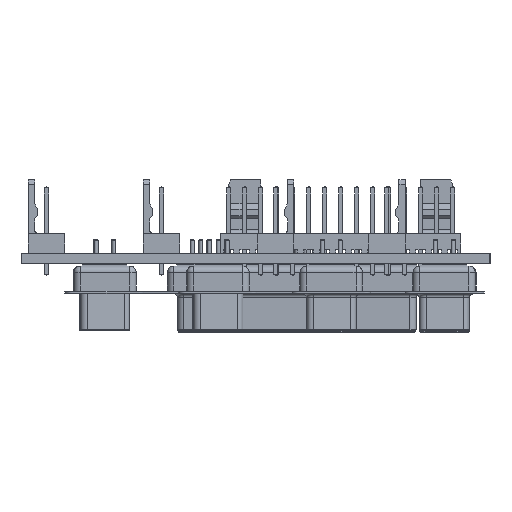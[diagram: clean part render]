
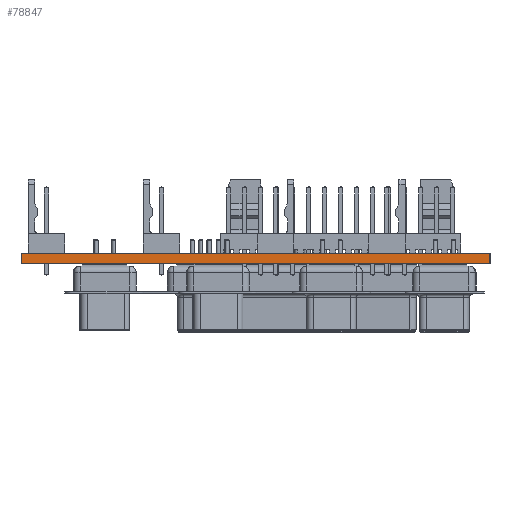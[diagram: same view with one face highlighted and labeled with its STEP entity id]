
A CAD part, left-side view. The second image highlights one B-rep face of the part: STEP entity #78847.
In plain terms, the highlighted planar face has unit normal (-1, 0, 0).
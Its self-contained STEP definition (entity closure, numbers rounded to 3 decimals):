
#78847 = ADVANCED_FACE('',(#78848),#78862,.F.);
#78848 = FACE_BOUND('',#78849,.F.);
#78849 = EDGE_LOOP('',(#78850,#78885,#78913,#78941));
#78850 = ORIENTED_EDGE('',*,*,#78851,.T.);
#78851 = EDGE_CURVE('',#78852,#78854,#78856,.T.);
#78852 = VERTEX_POINT('',#78853);
#78853 = CARTESIAN_POINT('',(32.664,-21.92,0.));
#78854 = VERTEX_POINT('',#78855);
#78855 = CARTESIAN_POINT('',(32.664,-21.92,1.6));
#78856 = SURFACE_CURVE('',#78857,(#78861,#78873),.PCURVE_S1.);
#78857 = LINE('',#78858,#78859);
#78858 = CARTESIAN_POINT('',(32.664,-21.92,0.));
#78859 = VECTOR('',#78860,1.);
#78860 = DIRECTION('',(0.,0.,1.));
#78861 = PCURVE('',#78862,#78867);
#78862 = PLANE('',#78863);
#78863 = AXIS2_PLACEMENT_3D('',#78864,#78865,#78866);
#78864 = CARTESIAN_POINT('',(32.664,-21.92,0.));
#78865 = DIRECTION('',(1.,0.,-0.));
#78866 = DIRECTION('',(0.,-1.,0.));
#78867 = DEFINITIONAL_REPRESENTATION('',(#78868),#78872);
#78868 = LINE('',#78869,#78870);
#78869 = CARTESIAN_POINT('',(0.,0.));
#78870 = VECTOR('',#78871,1.);
#78871 = DIRECTION('',(0.,-1.));
#78872 = ( GEOMETRIC_REPRESENTATION_CONTEXT(2) 
PARAMETRIC_REPRESENTATION_CONTEXT() REPRESENTATION_CONTEXT('2D SPACE',''
  ) );
#78873 = PCURVE('',#78874,#78879);
#78874 = PLANE('',#78875);
#78875 = AXIS2_PLACEMENT_3D('',#78876,#78877,#78878);
#78876 = CARTESIAN_POINT('',(98.552,-21.92,0.));
#78877 = DIRECTION('',(0.,-1.,0.));
#78878 = DIRECTION('',(-1.,0.,0.));
#78879 = DEFINITIONAL_REPRESENTATION('',(#78880),#78884);
#78880 = LINE('',#78881,#78882);
#78881 = CARTESIAN_POINT('',(65.888,0.));
#78882 = VECTOR('',#78883,1.);
#78883 = DIRECTION('',(0.,-1.));
#78884 = ( GEOMETRIC_REPRESENTATION_CONTEXT(2) 
PARAMETRIC_REPRESENTATION_CONTEXT() REPRESENTATION_CONTEXT('2D SPACE',''
  ) );
#78885 = ORIENTED_EDGE('',*,*,#78886,.T.);
#78886 = EDGE_CURVE('',#78854,#78887,#78889,.T.);
#78887 = VERTEX_POINT('',#78888);
#78888 = CARTESIAN_POINT('',(32.664,-96.241,1.6));
#78889 = SURFACE_CURVE('',#78890,(#78894,#78901),.PCURVE_S1.);
#78890 = LINE('',#78891,#78892);
#78891 = CARTESIAN_POINT('',(32.664,-21.92,1.6));
#78892 = VECTOR('',#78893,1.);
#78893 = DIRECTION('',(0.,-1.,0.));
#78894 = PCURVE('',#78862,#78895);
#78895 = DEFINITIONAL_REPRESENTATION('',(#78896),#78900);
#78896 = LINE('',#78897,#78898);
#78897 = CARTESIAN_POINT('',(0.,-1.6));
#78898 = VECTOR('',#78899,1.);
#78899 = DIRECTION('',(1.,0.));
#78900 = ( GEOMETRIC_REPRESENTATION_CONTEXT(2) 
PARAMETRIC_REPRESENTATION_CONTEXT() REPRESENTATION_CONTEXT('2D SPACE',''
  ) );
#78901 = PCURVE('',#78902,#78907);
#78902 = PLANE('',#78903);
#78903 = AXIS2_PLACEMENT_3D('',#78904,#78905,#78906);
#78904 = CARTESIAN_POINT('',(74.657,-60.128,1.6));
#78905 = DIRECTION('',(0.,0.,1.));
#78906 = DIRECTION('',(1.,0.,-0.));
#78907 = DEFINITIONAL_REPRESENTATION('',(#78908),#78912);
#78908 = LINE('',#78909,#78910);
#78909 = CARTESIAN_POINT('',(-41.993,38.207));
#78910 = VECTOR('',#78911,1.);
#78911 = DIRECTION('',(0.,-1.));
#78912 = ( GEOMETRIC_REPRESENTATION_CONTEXT(2) 
PARAMETRIC_REPRESENTATION_CONTEXT() REPRESENTATION_CONTEXT('2D SPACE',''
  ) );
#78913 = ORIENTED_EDGE('',*,*,#78914,.F.);
#78914 = EDGE_CURVE('',#78915,#78887,#78917,.T.);
#78915 = VERTEX_POINT('',#78916);
#78916 = CARTESIAN_POINT('',(32.664,-96.241,0.));
#78917 = SURFACE_CURVE('',#78918,(#78922,#78929),.PCURVE_S1.);
#78918 = LINE('',#78919,#78920);
#78919 = CARTESIAN_POINT('',(32.664,-96.241,0.));
#78920 = VECTOR('',#78921,1.);
#78921 = DIRECTION('',(0.,0.,1.));
#78922 = PCURVE('',#78862,#78923);
#78923 = DEFINITIONAL_REPRESENTATION('',(#78924),#78928);
#78924 = LINE('',#78925,#78926);
#78925 = CARTESIAN_POINT('',(74.32,0.));
#78926 = VECTOR('',#78927,1.);
#78927 = DIRECTION('',(0.,-1.));
#78928 = ( GEOMETRIC_REPRESENTATION_CONTEXT(2) 
PARAMETRIC_REPRESENTATION_CONTEXT() REPRESENTATION_CONTEXT('2D SPACE',''
  ) );
#78929 = PCURVE('',#78930,#78935);
#78930 = PLANE('',#78931);
#78931 = AXIS2_PLACEMENT_3D('',#78932,#78933,#78934);
#78932 = CARTESIAN_POINT('',(32.664,-96.241,0.));
#78933 = DIRECTION('',(0.,1.,0.));
#78934 = DIRECTION('',(1.,0.,0.));
#78935 = DEFINITIONAL_REPRESENTATION('',(#78936),#78940);
#78936 = LINE('',#78937,#78938);
#78937 = CARTESIAN_POINT('',(0.,0.));
#78938 = VECTOR('',#78939,1.);
#78939 = DIRECTION('',(0.,-1.));
#78940 = ( GEOMETRIC_REPRESENTATION_CONTEXT(2) 
PARAMETRIC_REPRESENTATION_CONTEXT() REPRESENTATION_CONTEXT('2D SPACE',''
  ) );
#78941 = ORIENTED_EDGE('',*,*,#78942,.F.);
#78942 = EDGE_CURVE('',#78852,#78915,#78943,.T.);
#78943 = SURFACE_CURVE('',#78944,(#78948,#78955),.PCURVE_S1.);
#78944 = LINE('',#78945,#78946);
#78945 = CARTESIAN_POINT('',(32.664,-21.92,0.));
#78946 = VECTOR('',#78947,1.);
#78947 = DIRECTION('',(0.,-1.,0.));
#78948 = PCURVE('',#78862,#78949);
#78949 = DEFINITIONAL_REPRESENTATION('',(#78950),#78954);
#78950 = LINE('',#78951,#78952);
#78951 = CARTESIAN_POINT('',(0.,0.));
#78952 = VECTOR('',#78953,1.);
#78953 = DIRECTION('',(1.,0.));
#78954 = ( GEOMETRIC_REPRESENTATION_CONTEXT(2) 
PARAMETRIC_REPRESENTATION_CONTEXT() REPRESENTATION_CONTEXT('2D SPACE',''
  ) );
#78955 = PCURVE('',#78956,#78961);
#78956 = PLANE('',#78957);
#78957 = AXIS2_PLACEMENT_3D('',#78958,#78959,#78960);
#78958 = CARTESIAN_POINT('',(74.657,-60.128,0.));
#78959 = DIRECTION('',(0.,0.,1.));
#78960 = DIRECTION('',(1.,0.,-0.));
#78961 = DEFINITIONAL_REPRESENTATION('',(#78962),#78966);
#78962 = LINE('',#78963,#78964);
#78963 = CARTESIAN_POINT('',(-41.993,38.207));
#78964 = VECTOR('',#78965,1.);
#78965 = DIRECTION('',(0.,-1.));
#78966 = ( GEOMETRIC_REPRESENTATION_CONTEXT(2) 
PARAMETRIC_REPRESENTATION_CONTEXT() REPRESENTATION_CONTEXT('2D SPACE',''
  ) );
